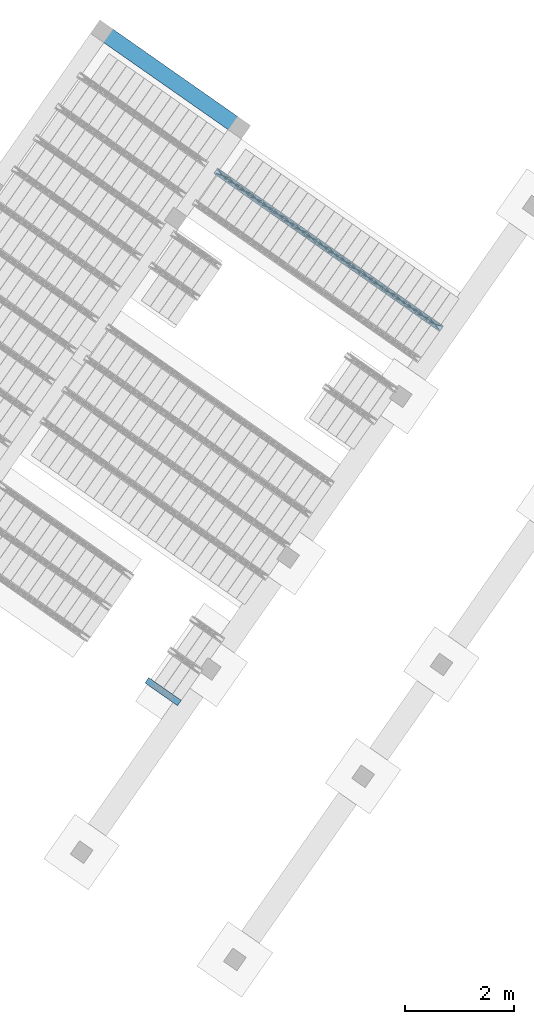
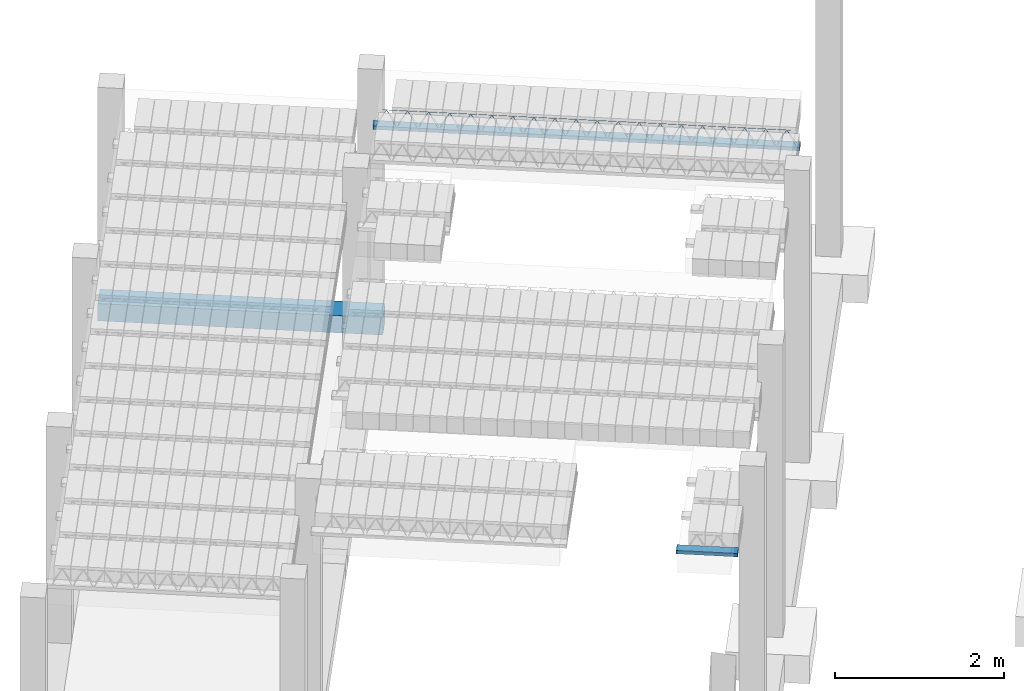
# One storey, part 49 of 80: 3 beams.
"""IFC2X3 building model written with IfcOpenShell, lengths in metres."""

from ifc_helpers import new_model, entity, si_unit, converted_unit, derived_unit, direction, frame, frame_2d, origin, origin_2d_with_axis, place, context, subcontext, project, spatial, rectangle, circle, extrude, material, type_object, element, save


model = new_model("IFC2X3")

# Units and contexts
model_context = context("Model", 3, precision=1e-05, world=origin(), true_north=direction((6.123031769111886e-17, 1.0)))
body_context = subcontext(model_context, "Body", "Model", "MODEL_VIEW")
ifc_project = project(units=[si_unit("LENGTHUNIT", "METRE"), si_unit("AREAUNIT", "SQUARE_METRE"), si_unit("VOLUMEUNIT", "CUBIC_METRE"), converted_unit("PLANEANGLEUNIT", "DEGREE", entity("IfcPlaneAngleMeasure", 0.017453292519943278), si_unit("PLANEANGLEUNIT", "RADIAN"), dimensions=[0, 0, 0, 0, 0, 0, 0]), si_unit("MASSUNIT", "GRAM", prefix="KILO"), derived_unit("MASSDENSITYUNIT", [(si_unit("MASSUNIT", "GRAM", prefix="KILO"), 1), (si_unit("LENGTHUNIT", "METRE"), -3)]), derived_unit("IONCONCENTRATIONUNIT", [(si_unit("MASSUNIT", "GRAM", prefix="KILO"), 1), (si_unit("LENGTHUNIT", "METRE"), -3)]), derived_unit("MOMENTOFINERTIAUNIT", [(si_unit("LENGTHUNIT", "METRE"), 4)]), si_unit("TIMEUNIT", "SECOND"), si_unit("FREQUENCYUNIT", "HERTZ"), si_unit("THERMODYNAMICTEMPERATUREUNIT", "DEGREE_CELSIUS"), derived_unit("THERMALTRANSMITTANCEUNIT", [(si_unit("MASSUNIT", "GRAM", prefix="KILO"), 1), (si_unit("THERMODYNAMICTEMPERATUREUNIT", "KELVIN"), -1), (si_unit("TIMEUNIT", "SECOND"), -3)]), derived_unit("THERMALCONDUCTANCEUNIT", [(si_unit("MASSUNIT", "GRAM", prefix="KILO"), 1), (si_unit("THERMODYNAMICTEMPERATUREUNIT", "KELVIN"), -1), (si_unit("TIMEUNIT", "SECOND"), -3), (si_unit("LENGTHUNIT", "METRE"), 1)]), derived_unit("VOLUMETRICFLOWRATEUNIT", [(si_unit("LENGTHUNIT", "METRE", prefix="DECI"), 3), (si_unit("TIMEUNIT", "SECOND"), -1)]), derived_unit("MASSFLOWRATEUNIT", [(si_unit("MASSUNIT", "GRAM", prefix="KILO"), 1), (si_unit("TIMEUNIT", "SECOND"), -1)]), derived_unit("ROTATIONALFREQUENCYUNIT", [(si_unit("TIMEUNIT", "SECOND"), -1)]), si_unit("ELECTRICCURRENTUNIT", "AMPERE"), si_unit("ELECTRICVOLTAGEUNIT", "VOLT"), si_unit("POWERUNIT", "WATT"), si_unit("FORCEUNIT", "NEWTON", prefix="KILO"), si_unit("ILLUMINANCEUNIT", "LUX"), si_unit("LUMINOUSFLUXUNIT", "LUMEN"), si_unit("LUMINOUSINTENSITYUNIT", "CANDELA"), si_unit("ENERGYUNIT", "JOULE"), derived_unit("USERDEFINED", [(si_unit("MASSUNIT", "GRAM", prefix="KILO"), -1), (si_unit("LENGTHUNIT", "METRE"), -2), (si_unit("TIMEUNIT", "SECOND"), 3), (si_unit("LUMINOUSFLUXUNIT", "LUMEN"), 1)]), derived_unit("USERDEFINED", [(si_unit("MASSUNIT", "GRAM", prefix="KILO"), 1), (si_unit("TIMEUNIT", "SECOND"), -3), (si_unit("LENGTHUNIT", "METRE"), 3), (si_unit("ELECTRICCURRENTUNIT", "AMPERE"), -2)]), derived_unit("SOUNDPOWERUNIT", [(si_unit("MASSUNIT", "GRAM", prefix="KILO"), 1), (si_unit("TIMEUNIT", "SECOND"), -3), (si_unit("LENGTHUNIT", "METRE"), 2)]), derived_unit("SOUNDPRESSUREUNIT", [(si_unit("MASSUNIT", "GRAM", prefix="KILO"), 1), (si_unit("LENGTHUNIT", "METRE"), -1), (si_unit("TIMEUNIT", "SECOND"), -2)]), derived_unit("LINEARVELOCITYUNIT", [(si_unit("LENGTHUNIT", "METRE"), 1), (si_unit("TIMEUNIT", "SECOND"), -1)]), si_unit("PRESSUREUNIT", "PASCAL"), derived_unit("USERDEFINED", [(si_unit("MASSUNIT", "GRAM", prefix="KILO"), 1), (si_unit("LENGTHUNIT", "METRE"), -2), (si_unit("TIMEUNIT", "SECOND"), -2)]), derived_unit("LINEARFORCEUNIT", [(si_unit("MASSUNIT", "GRAM", prefix="KILO"), 1), (si_unit("TIMEUNIT", "SECOND"), -2)]), derived_unit("PLANARFORCEUNIT", [(si_unit("MASSUNIT", "GRAM", prefix="KILO"), 1), (si_unit("LENGTHUNIT", "METRE"), -1), (si_unit("TIMEUNIT", "SECOND"), -2)]), derived_unit("SPECIFICHEATCAPACITYUNIT", [(si_unit("THERMODYNAMICTEMPERATUREUNIT", "KELVIN"), -1), (si_unit("LENGTHUNIT", "METRE"), 2), (si_unit("TIMEUNIT", "SECOND"), -2)]), derived_unit("HEATFLUXDENSITYUNIT", [(si_unit("MASSUNIT", "GRAM", prefix="KILO"), 1), (si_unit("TIMEUNIT", "SECOND"), -3)]), derived_unit("HEATINGVALUEUNIT", [(si_unit("LENGTHUNIT", "METRE"), 2), (si_unit("TIMEUNIT", "SECOND"), -2)]), derived_unit("VAPORPERMEABILITYUNIT", [(si_unit("LENGTHUNIT", "METRE"), -1), (si_unit("TIMEUNIT", "SECOND"), 1)]), derived_unit("DYNAMICVISCOSITYUNIT", [(si_unit("MASSUNIT", "GRAM", prefix="KILO"), 1), (si_unit("TIMEUNIT", "SECOND"), -1), (si_unit("LENGTHUNIT", "METRE"), -1)]), derived_unit("THERMALEXPANSIONCOEFFICIENTUNIT", [(si_unit("THERMODYNAMICTEMPERATUREUNIT", "KELVIN"), -1)]), derived_unit("MODULUSOFELASTICITYUNIT", [(si_unit("MASSUNIT", "GRAM", prefix="KILO"), 1), (si_unit("LENGTHUNIT", "METRE"), -1), (si_unit("TIMEUNIT", "SECOND"), -2)]), derived_unit("ISOTHERMALMOISTURECAPACITYUNIT", [(si_unit("MASSUNIT", "GRAM", prefix="KILO"), -1), (si_unit("LENGTHUNIT", "METRE"), 3)]), derived_unit("MOISTUREDIFFUSIVITYUNIT", [(si_unit("TIMEUNIT", "SECOND"), -1), (si_unit("LENGTHUNIT", "METRE"), 2)]), derived_unit("MASSPERLENGTHUNIT", [(si_unit("MASSUNIT", "GRAM", prefix="KILO"), 1), (si_unit("LENGTHUNIT", "METRE"), -1)]), derived_unit("THERMALRESISTANCEUNIT", [(si_unit("MASSUNIT", "GRAM", prefix="KILO"), -1), (si_unit("TIMEUNIT", "SECOND"), 3), (si_unit("THERMODYNAMICTEMPERATUREUNIT", "KELVIN"), 1)]), derived_unit("ACCELERATIONUNIT", [(si_unit("LENGTHUNIT", "METRE"), 1), (si_unit("TIMEUNIT", "SECOND"), -2)]), derived_unit("ANGULARVELOCITYUNIT", [(si_unit("TIMEUNIT", "SECOND"), -1), (si_unit("PLANEANGLEUNIT", "RADIAN"), 1)]), derived_unit("LINEARSTIFFNESSUNIT", [(si_unit("MASSUNIT", "GRAM", prefix="KILO"), 1), (si_unit("TIMEUNIT", "SECOND"), -2)]), derived_unit("WARPINGCONSTANTUNIT", [(si_unit("LENGTHUNIT", "METRE"), 6)]), derived_unit("LINEARMOMENTUNIT", [(si_unit("MASSUNIT", "GRAM", prefix="KILO"), 1), (si_unit("LENGTHUNIT", "METRE"), 1), (si_unit("TIMEUNIT", "SECOND"), -2)]), derived_unit("TORQUEUNIT", [(si_unit("MASSUNIT", "GRAM", prefix="KILO"), 1), (si_unit("LENGTHUNIT", "METRE"), 2), (si_unit("TIMEUNIT", "SECOND"), -2)])], contexts=[model_context])

# Site, building, storey
site_placement = place(None, origin())
site = spatial("IfcSite", under=ifc_project, at=site_placement, Name="Default", CompositionType="ELEMENT")
building_placement = place(site_placement, origin())
building = spatial("IfcBuilding", under=site, at=building_placement, CompositionType="ELEMENT")
storey_placement = place(building_placement, frame((0.0, 0.0, 95.94)))
storey = spatial("IfcBuildingStorey", under=building, at=storey_placement, Name="PB", CompositionType="ELEMENT", Elevation=95.94)

# Beams
beam_type = type_object("IfcBeamType", Name="Vigueta 2 (Paño 15) (Mf = 35.75)", PredefinedType="JOIST")
beam_1_placement = place(storey_placement, origin())
element("IfcBeam", 1, at=beam_1_placement, inside=storey, type_object=beam_type, Name="Vigueta 2 (Paño 15) (Mf = 35.75)", ObjectType="Mf = 35.75", context=body_context, shape_type="SweptSolid", body=[
    extrude(rectangle(XDim=5.065554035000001, YDim=0.12000000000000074, at=frame_2d((8.881784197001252e-16, 6.071532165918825e-16), x_axis=(1.0, 0.0))), frame((8.640915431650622, 6.951159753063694, 3.2799999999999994), z_axis=(0.0, 0.0, 1.0), x_axis=(0.8191520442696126, -0.5735764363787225, 0.0)), (0.0, 0.0, 1.0), 0.04999999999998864),
    extrude(circle(Radius=0.0025, at=origin_2d_with_axis()), frame((10.675336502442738, 5.482694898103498, 3.3049999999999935), z_axis=(-0.8191520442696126, 0.5735764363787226, 0.0), x_axis=(-0.5735764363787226, -0.8191520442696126, 0.0)), (0.0, 0.0, 1.0), 5.017554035),
    extrude(circle(Radius=0.0025, at=origin_2d_with_axis()), frame((6.654471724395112, 8.342082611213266, 3.5299999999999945), z_axis=(0.8191520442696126, -0.5735764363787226, 0.0), x_axis=(-0.5735764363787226, -0.8191520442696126, 0.0)), (0.0, 0.0, 1.0), 4.849999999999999),
    extrude(circle(Radius=0.0025, at=origin_2d_with_axis()), frame((10.668146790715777, 5.487729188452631, 3.3049999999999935), z_axis=(-0.3145304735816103, 0.389334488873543, 0.8657304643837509), x_axis=(-0.7778747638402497, -0.6284193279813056, 0.0)), (0.0, 0.0, 1.0), 0.2598961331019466),
    extrude(circle(Radius=0.0025, at=origin_2d_with_axis()), frame((10.46335877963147, 5.631123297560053, 3.3049999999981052), z_axis=(0.47343050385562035, -0.1624017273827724, 0.8657304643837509), x_axis=(-0.3244721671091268, -0.9458952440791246, 0.0)), (0.0, 0.0, 1.0), 0.25989613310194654),
    extrude(circle(Radius=0.0025, at=origin_2d_with_axis()), frame((10.463358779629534, 5.631123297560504, 3.3049999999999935), z_axis=(-0.3145304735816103, 0.389334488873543, 0.8657304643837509), x_axis=(-0.7778747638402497, -0.6284193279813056, 0.0)), (0.0, 0.0, 1.0), 0.2598961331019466),
    extrude(circle(Radius=0.0025, at=origin_2d_with_axis()), frame((10.258570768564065, 5.774517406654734, 3.3049999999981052), z_axis=(0.47343050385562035, -0.1624017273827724, 0.8657304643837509), x_axis=(-0.3244721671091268, -0.9458952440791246, 0.0)), (0.0, 0.0, 1.0), 0.25989613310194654),
    extrude(circle(Radius=0.0025, at=origin_2d_with_axis()), frame((10.258570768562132, 5.7745174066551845, 3.3049999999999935), z_axis=(-0.3145304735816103, 0.389334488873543, 0.8657304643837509), x_axis=(-0.7778747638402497, -0.6284193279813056, 0.0)), (0.0, 0.0, 1.0), 0.2598961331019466),
    extrude(circle(Radius=0.0025, at=origin_2d_with_axis()), frame((10.053782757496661, 5.917911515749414, 3.3049999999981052), z_axis=(0.47343050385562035, -0.1624017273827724, 0.8657304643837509), x_axis=(-0.3244721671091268, -0.9458952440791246, 0.0)), (0.0, 0.0, 1.0), 0.25989613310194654),
    extrude(circle(Radius=0.0025, at=origin_2d_with_axis()), frame((10.053782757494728, 5.917911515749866, 3.3049999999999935), z_axis=(-0.3145304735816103, 0.389334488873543, 0.8657304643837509), x_axis=(-0.7778747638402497, -0.6284193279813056, 0.0)), (0.0, 0.0, 1.0), 0.2598961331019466),
    extrude(circle(Radius=0.0025, at=origin_2d_with_axis()), frame((9.848994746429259, 6.061305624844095, 3.3049999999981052), z_axis=(0.47343050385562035, -0.1624017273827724, 0.8657304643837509), x_axis=(-0.3244721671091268, -0.9458952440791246, 0.0)), (0.0, 0.0, 1.0), 0.25989613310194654),
    extrude(circle(Radius=0.0025, at=origin_2d_with_axis()), frame((9.848994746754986, 6.061305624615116, 3.3049999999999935), z_axis=(-0.3145304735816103, 0.389334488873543, 0.8657304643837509), x_axis=(-0.7778747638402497, -0.6284193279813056, 0.0)), (0.0, 0.0, 1.0), 0.2598961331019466),
    extrude(circle(Radius=0.0025, at=origin_2d_with_axis()), frame((9.644206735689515, 6.204699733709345, 3.3049999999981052), z_axis=(0.47343050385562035, -0.1624017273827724, 0.8657304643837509), x_axis=(-0.3244721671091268, -0.9458952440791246, 0.0)), (0.0, 0.0, 1.0), 0.25989613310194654),
    extrude(circle(Radius=0.0025, at=origin_2d_with_axis()), frame((9.644206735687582, 6.204699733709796, 3.3049999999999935), z_axis=(-0.3145304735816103, 0.389334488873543, 0.8657304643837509), x_axis=(-0.7778747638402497, -0.6284193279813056, 0.0)), (0.0, 0.0, 1.0), 0.2598961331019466),
    extrude(circle(Radius=0.0025, at=origin_2d_with_axis()), frame((9.439418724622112, 6.348093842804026, 3.3049999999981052), z_axis=(0.47343050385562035, -0.1624017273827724, 0.8657304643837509), x_axis=(-0.3244721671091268, -0.9458952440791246, 0.0)), (0.0, 0.0, 1.0), 0.25989613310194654),
    extrude(circle(Radius=0.0025, at=origin_2d_with_axis()), frame((9.439418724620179, 6.348093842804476, 3.3049999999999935), z_axis=(-0.3145304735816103, 0.389334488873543, 0.8657304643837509), x_axis=(-0.7778747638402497, -0.6284193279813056, 0.0)), (0.0, 0.0, 1.0), 0.2598961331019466),
    extrude(circle(Radius=0.0025, at=origin_2d_with_axis()), frame((9.23463071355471, 6.491487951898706, 3.3049999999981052), z_axis=(0.47343050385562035, -0.1624017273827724, 0.8657304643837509), x_axis=(-0.3244721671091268, -0.9458952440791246, 0.0)), (0.0, 0.0, 1.0), 0.25989613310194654),
    extrude(circle(Radius=0.0025, at=origin_2d_with_axis()), frame((9.234630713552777, 6.491487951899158, 3.3049999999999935), z_axis=(-0.3145304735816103, 0.389334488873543, 0.8657304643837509), x_axis=(-0.7778747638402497, -0.6284193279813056, 0.0)), (0.0, 0.0, 1.0), 0.2598961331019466),
    extrude(circle(Radius=0.0025, at=origin_2d_with_axis()), frame((9.029842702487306, 6.6348820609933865, 3.3049999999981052), z_axis=(0.47343050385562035, -0.1624017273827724, 0.8657304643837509), x_axis=(-0.3244721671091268, -0.9458952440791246, 0.0)), (0.0, 0.0, 1.0), 0.25989613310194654),
    extrude(circle(Radius=0.0025, at=origin_2d_with_axis()), frame((9.029842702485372, 6.634882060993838, 3.3049999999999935), z_axis=(-0.3145304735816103, 0.389334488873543, 0.8657304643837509), x_axis=(-0.7778747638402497, -0.6284193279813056, 0.0)), (0.0, 0.0, 1.0), 0.2598961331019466),
    extrude(circle(Radius=0.0025, at=origin_2d_with_axis()), frame((8.825054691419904, 6.778276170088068, 3.3049999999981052), z_axis=(0.47343050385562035, -0.1624017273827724, 0.8657304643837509), x_axis=(-0.3244721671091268, -0.9458952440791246, 0.0)), (0.0, 0.0, 1.0), 0.25989613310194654),
    extrude(circle(Radius=0.0025, at=origin_2d_with_axis()), frame((8.82505469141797, 6.778276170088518, 3.3049999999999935), z_axis=(-0.3145304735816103, 0.389334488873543, 0.8657304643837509), x_axis=(-0.7778747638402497, -0.6284193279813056, 0.0)), (0.0, 0.0, 1.0), 0.2598961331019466),
    extrude(circle(Radius=0.0025, at=origin_2d_with_axis()), frame((8.620266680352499, 6.921670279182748, 3.3049999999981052), z_axis=(0.47343050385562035, -0.1624017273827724, 0.8657304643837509), x_axis=(-0.3244721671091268, -0.9458952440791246, 0.0)), (0.0, 0.0, 1.0), 0.25989613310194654),
    extrude(circle(Radius=0.0025, at=origin_2d_with_axis()), frame((8.620266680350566, 6.921670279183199, 3.3049999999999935), z_axis=(-0.3145304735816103, 0.389334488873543, 0.8657304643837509), x_axis=(-0.7778747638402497, -0.6284193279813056, 0.0)), (0.0, 0.0, 1.0), 0.2598961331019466),
    extrude(circle(Radius=0.0025, at=origin_2d_with_axis()), frame((8.415478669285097, 7.065064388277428, 3.3049999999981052), z_axis=(0.47343050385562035, -0.1624017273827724, 0.8657304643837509), x_axis=(-0.3244721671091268, -0.9458952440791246, 0.0)), (0.0, 0.0, 1.0), 0.25989613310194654),
    extrude(circle(Radius=0.0025, at=origin_2d_with_axis()), frame((8.415478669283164, 7.06506438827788, 3.3049999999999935), z_axis=(-0.3145304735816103, 0.389334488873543, 0.8657304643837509), x_axis=(-0.7778747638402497, -0.6284193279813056, 0.0)), (0.0, 0.0, 1.0), 0.2598961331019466),
    extrude(circle(Radius=0.0025, at=origin_2d_with_axis()), frame((8.210690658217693, 7.20845849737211, 3.3049999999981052), z_axis=(0.47343050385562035, -0.1624017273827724, 0.8657304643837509), x_axis=(-0.3244721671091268, -0.9458952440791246, 0.0)), (0.0, 0.0, 1.0), 0.25989613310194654),
    extrude(circle(Radius=0.0025, at=origin_2d_with_axis()), frame((8.21069065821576, 7.20845849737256, 3.3049999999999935), z_axis=(-0.3145304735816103, 0.389334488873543, 0.8657304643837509), x_axis=(-0.7778747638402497, -0.6284193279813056, 0.0)), (0.0, 0.0, 1.0), 0.2598961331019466),
    extrude(circle(Radius=0.0025, at=origin_2d_with_axis()), frame((8.00590264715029, 7.35185260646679, 3.3049999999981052), z_axis=(0.47343050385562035, -0.1624017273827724, 0.8657304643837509), x_axis=(-0.3244721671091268, -0.9458952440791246, 0.0)), (0.0, 0.0, 1.0), 0.25989613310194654),
    extrude(circle(Radius=0.0025, at=origin_2d_with_axis()), frame((8.005902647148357, 7.351852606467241, 3.3049999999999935), z_axis=(-0.3145304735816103, 0.389334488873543, 0.8657304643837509), x_axis=(-0.7778747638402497, -0.6284193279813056, 0.0)), (0.0, 0.0, 1.0), 0.2598961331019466),
    extrude(circle(Radius=0.0025, at=origin_2d_with_axis()), frame((7.801114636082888, 7.49524671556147, 3.3049999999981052), z_axis=(0.47343050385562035, -0.1624017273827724, 0.8657304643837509), x_axis=(-0.3244721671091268, -0.9458952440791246, 0.0)), (0.0, 0.0, 1.0), 0.25989613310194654),
    extrude(circle(Radius=0.0025, at=origin_2d_with_axis()), frame((7.801114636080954, 7.4952467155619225, 3.3049999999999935), z_axis=(-0.3145304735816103, 0.389334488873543, 0.8657304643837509), x_axis=(-0.7778747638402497, -0.6284193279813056, 0.0)), (0.0, 0.0, 1.0), 0.2598961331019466),
    extrude(circle(Radius=0.0025, at=origin_2d_with_axis()), frame((7.596326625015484, 7.638640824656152, 3.3049999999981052), z_axis=(0.47343050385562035, -0.1624017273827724, 0.8657304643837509), x_axis=(-0.3244721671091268, -0.9458952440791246, 0.0)), (0.0, 0.0, 1.0), 0.25989613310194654),
    extrude(circle(Radius=0.0025, at=origin_2d_with_axis()), frame((7.5963266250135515, 7.638640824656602, 3.3049999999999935), z_axis=(-0.3145304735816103, 0.389334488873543, 0.8657304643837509), x_axis=(-0.7778747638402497, -0.6284193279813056, 0.0)), (0.0, 0.0, 1.0), 0.2598961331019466),
    extrude(circle(Radius=0.0025, at=origin_2d_with_axis()), frame((7.391538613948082, 7.782034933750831, 3.3049999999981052), z_axis=(0.47343050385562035, -0.1624017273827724, 0.8657304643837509), x_axis=(-0.3244721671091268, -0.9458952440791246, 0.0)), (0.0, 0.0, 1.0), 0.25989613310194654),
    extrude(circle(Radius=0.0025, at=origin_2d_with_axis()), frame((7.391538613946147, 7.782034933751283, 3.3049999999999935), z_axis=(-0.3145304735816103, 0.389334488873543, 0.8657304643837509), x_axis=(-0.7778747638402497, -0.6284193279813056, 0.0)), (0.0, 0.0, 1.0), 0.2598961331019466),
    extrude(circle(Radius=0.0025, at=origin_2d_with_axis()), frame((7.186750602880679, 7.925429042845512, 3.3049999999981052), z_axis=(0.47343050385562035, -0.1624017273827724, 0.8657304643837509), x_axis=(-0.3244721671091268, -0.9458952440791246, 0.0)), (0.0, 0.0, 1.0), 0.25989613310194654),
    extrude(circle(Radius=0.0025, at=origin_2d_with_axis()), frame((7.186750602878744, 7.925429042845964, 3.3049999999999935), z_axis=(-0.3145304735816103, 0.389334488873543, 0.8657304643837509), x_axis=(-0.7778747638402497, -0.6284193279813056, 0.0)), (0.0, 0.0, 1.0), 0.2598961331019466),
    extrude(circle(Radius=0.0025, at=origin_2d_with_axis()), frame((6.981962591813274, 8.068823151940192, 3.3049999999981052), z_axis=(0.47343050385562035, -0.1624017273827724, 0.8657304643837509), x_axis=(-0.3244721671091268, -0.9458952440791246, 0.0)), (0.0, 0.0, 1.0), 0.25989613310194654),
    extrude(circle(Radius=0.0025, at=origin_2d_with_axis()), frame((6.9819625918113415, 8.068823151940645, 3.3049999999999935), z_axis=(-0.3145304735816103, 0.389334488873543, 0.8657304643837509), x_axis=(-0.7778747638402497, -0.6284193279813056, 0.0)), (0.0, 0.0, 1.0), 0.2598961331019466),
    extrude(circle(Radius=0.0025, at=origin_2d_with_axis()), frame((6.777174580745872, 8.212217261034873, 3.3049999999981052), z_axis=(0.47343050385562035, -0.1624017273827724, 0.8657304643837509), x_axis=(-0.3244721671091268, -0.9458952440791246, 0.0)), (0.0, 0.0, 1.0), 0.25989613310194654),
    extrude(circle(Radius=0.0025, at=origin_2d_with_axis()), frame((6.777174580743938, 8.212217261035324, 3.3049999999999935), z_axis=(-0.3145304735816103, 0.389334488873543, 0.8657304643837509), x_axis=(-0.7778747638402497, -0.6284193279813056, 0.0)), (0.0, 0.0, 1.0), 0.2598961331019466),
    extrude(circle(Radius=0.0025, at=origin_2d_with_axis()), frame((6.572386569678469, 8.355611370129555, 3.3049999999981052), z_axis=(0.47343050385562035, -0.1624017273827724, 0.8657304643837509), x_axis=(-0.3244721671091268, -0.9458952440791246, 0.0)), (0.0, 0.0, 1.0), 0.25989613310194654),
    extrude(circle(Radius=0.0025, at=origin_2d_with_axis()), frame((6.606494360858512, 8.41962460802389, 3.3049999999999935), z_axis=(0.8191520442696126, -0.5735764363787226, 0.0), x_axis=(-0.5735764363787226, -0.8191520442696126, 0.0)), (0.0, 0.0, 1.0), 5.017554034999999),
    extrude(circle(Radius=0.0025, at=origin_2d_with_axis()), frame((10.709444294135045, 5.546708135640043, 3.3049999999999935), z_axis=(-0.47343050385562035, 0.1624017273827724, 0.8657304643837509), x_axis=(-0.3244721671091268, -0.9458952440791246, 0.0)), (0.0, 0.0, 1.0), 0.25989613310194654),
    extrude(circle(Radius=0.0025, at=origin_2d_with_axis()), frame((10.50465628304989, 5.690102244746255, 3.3049999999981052), z_axis=(0.3145304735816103, -0.389334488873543, 0.8657304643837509), x_axis=(-0.7778747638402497, -0.6284193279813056, 0.0)), (0.0, 0.0, 1.0), 0.2598961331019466),
    extrude(circle(Radius=0.0025, at=origin_2d_with_axis()), frame((10.504656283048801, 5.690102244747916, 3.3049999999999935), z_axis=(-0.47343050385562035, 0.1624017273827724, 0.8657304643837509), x_axis=(-0.3244721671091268, -0.9458952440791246, 0.0)), (0.0, 0.0, 1.0), 0.25989613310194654),
    extrude(circle(Radius=0.0025, at=origin_2d_with_axis()), frame((10.299868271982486, 5.833496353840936, 3.3049999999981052), z_axis=(0.3145304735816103, -0.389334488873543, 0.8657304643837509), x_axis=(-0.7778747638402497, -0.6284193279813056, 0.0)), (0.0, 0.0, 1.0), 0.2598961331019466),
    extrude(circle(Radius=0.0025, at=origin_2d_with_axis()), frame((10.2998682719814, 5.833496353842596, 3.3049999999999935), z_axis=(-0.47343050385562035, 0.1624017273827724, 0.8657304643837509), x_axis=(-0.3244721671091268, -0.9458952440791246, 0.0)), (0.0, 0.0, 1.0), 0.25989613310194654),
    extrude(circle(Radius=0.0025, at=origin_2d_with_axis()), frame((10.095080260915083, 5.976890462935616, 3.3049999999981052), z_axis=(0.3145304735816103, -0.389334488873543, 0.8657304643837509), x_axis=(-0.7778747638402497, -0.6284193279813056, 0.0)), (0.0, 0.0, 1.0), 0.2598961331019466),
    extrude(circle(Radius=0.0025, at=origin_2d_with_axis()), frame((10.095080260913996, 5.976890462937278, 3.3049999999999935), z_axis=(-0.47343050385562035, 0.1624017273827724, 0.8657304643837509), x_axis=(-0.3244721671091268, -0.9458952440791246, 0.0)), (0.0, 0.0, 1.0), 0.25989613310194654),
    extrude(circle(Radius=0.0025, at=origin_2d_with_axis()), frame((9.89029224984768, 6.120284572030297, 3.3049999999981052), z_axis=(0.3145304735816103, -0.389334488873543, 0.8657304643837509), x_axis=(-0.7778747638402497, -0.6284193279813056, 0.0)), (0.0, 0.0, 1.0), 0.2598961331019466),
    extrude(circle(Radius=0.0025, at=origin_2d_with_axis()), frame((9.890292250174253, 6.120284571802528, 3.3049999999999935), z_axis=(-0.47343050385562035, 0.1624017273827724, 0.8657304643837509), x_axis=(-0.3244721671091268, -0.9458952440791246, 0.0)), (0.0, 0.0, 1.0), 0.25989613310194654),
    extrude(circle(Radius=0.0025, at=origin_2d_with_axis()), frame((9.685504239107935, 6.263678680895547, 3.3049999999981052), z_axis=(0.3145304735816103, -0.389334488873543, 0.8657304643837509), x_axis=(-0.7778747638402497, -0.6284193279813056, 0.0)), (0.0, 0.0, 1.0), 0.2598961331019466),
    extrude(circle(Radius=0.0025, at=origin_2d_with_axis()), frame((9.68550423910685, 6.263678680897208, 3.3049999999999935), z_axis=(-0.47343050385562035, 0.1624017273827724, 0.8657304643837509), x_axis=(-0.3244721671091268, -0.9458952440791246, 0.0)), (0.0, 0.0, 1.0), 0.25989613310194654),
    extrude(circle(Radius=0.0025, at=origin_2d_with_axis()), frame((9.480716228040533, 6.407072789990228, 3.3049999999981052), z_axis=(0.3145304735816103, -0.389334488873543, 0.8657304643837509), x_axis=(-0.7778747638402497, -0.6284193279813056, 0.0)), (0.0, 0.0, 1.0), 0.2598961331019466),
    extrude(circle(Radius=0.0025, at=origin_2d_with_axis()), frame((9.480716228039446, 6.407072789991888, 3.3049999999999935), z_axis=(-0.47343050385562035, 0.1624017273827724, 0.8657304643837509), x_axis=(-0.3244721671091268, -0.9458952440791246, 0.0)), (0.0, 0.0, 1.0), 0.25989613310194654),
    extrude(circle(Radius=0.0025, at=origin_2d_with_axis()), frame((9.27592821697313, 6.550466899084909, 3.3049999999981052), z_axis=(0.3145304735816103, -0.389334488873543, 0.8657304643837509), x_axis=(-0.7778747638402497, -0.6284193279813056, 0.0)), (0.0, 0.0, 1.0), 0.2598961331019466),
    extrude(circle(Radius=0.0025, at=origin_2d_with_axis()), frame((9.275928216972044, 6.55046689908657, 3.3049999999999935), z_axis=(-0.47343050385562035, 0.1624017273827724, 0.8657304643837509), x_axis=(-0.3244721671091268, -0.9458952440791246, 0.0)), (0.0, 0.0, 1.0), 0.25989613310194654),
    extrude(circle(Radius=0.0025, at=origin_2d_with_axis()), frame((9.071140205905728, 6.693861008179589, 3.3049999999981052), z_axis=(0.3145304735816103, -0.389334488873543, 0.8657304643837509), x_axis=(-0.7778747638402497, -0.6284193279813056, 0.0)), (0.0, 0.0, 1.0), 0.2598961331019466),
    extrude(circle(Radius=0.0025, at=origin_2d_with_axis()), frame((9.07114020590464, 6.6938610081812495, 3.3049999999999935), z_axis=(-0.47343050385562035, 0.1624017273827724, 0.8657304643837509), x_axis=(-0.3244721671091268, -0.9458952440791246, 0.0)), (0.0, 0.0, 1.0), 0.25989613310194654),
    extrude(circle(Radius=0.0025, at=origin_2d_with_axis()), frame((8.866352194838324, 6.83725511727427, 3.3049999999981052), z_axis=(0.3145304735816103, -0.389334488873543, 0.8657304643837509), x_axis=(-0.7778747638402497, -0.6284193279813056, 0.0)), (0.0, 0.0, 1.0), 0.2598961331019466),
    extrude(circle(Radius=0.0025, at=origin_2d_with_axis()), frame((8.866352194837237, 6.83725511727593, 3.3049999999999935), z_axis=(-0.47343050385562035, 0.1624017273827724, 0.8657304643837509), x_axis=(-0.3244721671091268, -0.9458952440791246, 0.0)), (0.0, 0.0, 1.0), 0.25989613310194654),
    extrude(circle(Radius=0.0025, at=origin_2d_with_axis()), frame((8.66156418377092, 6.980649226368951, 3.3049999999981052), z_axis=(0.3145304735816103, -0.389334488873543, 0.8657304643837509), x_axis=(-0.7778747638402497, -0.6284193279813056, 0.0)), (0.0, 0.0, 1.0), 0.2598961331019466),
    extrude(circle(Radius=0.0025, at=origin_2d_with_axis()), frame((8.661564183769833, 6.980649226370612, 3.3049999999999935), z_axis=(-0.47343050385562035, 0.1624017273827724, 0.8657304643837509), x_axis=(-0.3244721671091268, -0.9458952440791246, 0.0)), (0.0, 0.0, 1.0), 0.25989613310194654),
    extrude(circle(Radius=0.0025, at=origin_2d_with_axis()), frame((8.456776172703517, 7.1240433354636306, 3.3049999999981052), z_axis=(0.3145304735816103, -0.389334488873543, 0.8657304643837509), x_axis=(-0.7778747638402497, -0.6284193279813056, 0.0)), (0.0, 0.0, 1.0), 0.2598961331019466),
    extrude(circle(Radius=0.0025, at=origin_2d_with_axis()), frame((8.456776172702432, 7.124043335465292, 3.3049999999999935), z_axis=(-0.47343050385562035, 0.1624017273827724, 0.8657304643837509), x_axis=(-0.3244721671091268, -0.9458952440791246, 0.0)), (0.0, 0.0, 1.0), 0.25989613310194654),
    extrude(circle(Radius=0.0025, at=origin_2d_with_axis()), frame((8.251988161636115, 7.267437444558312, 3.3049999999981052), z_axis=(0.3145304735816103, -0.389334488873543, 0.8657304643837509), x_axis=(-0.7778747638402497, -0.6284193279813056, 0.0)), (0.0, 0.0, 1.0), 0.2598961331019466),
    extrude(circle(Radius=0.0025, at=origin_2d_with_axis()), frame((8.251988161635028, 7.267437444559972, 3.3049999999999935), z_axis=(-0.47343050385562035, 0.1624017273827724, 0.8657304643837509), x_axis=(-0.3244721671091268, -0.9458952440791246, 0.0)), (0.0, 0.0, 1.0), 0.25989613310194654),
    extrude(circle(Radius=0.0025, at=origin_2d_with_axis()), frame((8.047200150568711, 7.410831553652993, 3.3049999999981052), z_axis=(0.3145304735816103, -0.389334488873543, 0.8657304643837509), x_axis=(-0.7778747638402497, -0.6284193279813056, 0.0)), (0.0, 0.0, 1.0), 0.2598961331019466),
    extrude(circle(Radius=0.0025, at=origin_2d_with_axis()), frame((8.047200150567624, 7.410831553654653, 3.3049999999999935), z_axis=(-0.47343050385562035, 0.1624017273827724, 0.8657304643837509), x_axis=(-0.3244721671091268, -0.9458952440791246, 0.0)), (0.0, 0.0, 1.0), 0.25989613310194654),
    extrude(circle(Radius=0.0025, at=origin_2d_with_axis()), frame((7.842412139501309, 7.5542256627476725, 3.3049999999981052), z_axis=(0.3145304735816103, -0.389334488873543, 0.8657304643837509), x_axis=(-0.7778747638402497, -0.6284193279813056, 0.0)), (0.0, 0.0, 1.0), 0.2598961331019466),
    extrude(circle(Radius=0.0025, at=origin_2d_with_axis()), frame((7.8424121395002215, 7.554225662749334, 3.3049999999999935), z_axis=(-0.47343050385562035, 0.1624017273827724, 0.8657304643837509), x_axis=(-0.3244721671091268, -0.9458952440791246, 0.0)), (0.0, 0.0, 1.0), 0.25989613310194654),
    extrude(circle(Radius=0.0025, at=origin_2d_with_axis()), frame((7.637624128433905, 7.697619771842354, 3.3049999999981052), z_axis=(0.3145304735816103, -0.389334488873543, 0.8657304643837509), x_axis=(-0.7778747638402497, -0.6284193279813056, 0.0)), (0.0, 0.0, 1.0), 0.2598961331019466),
    extrude(circle(Radius=0.0025, at=origin_2d_with_axis()), frame((7.637624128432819, 7.697619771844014, 3.3049999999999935), z_axis=(-0.47343050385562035, 0.1624017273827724, 0.8657304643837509), x_axis=(-0.3244721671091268, -0.9458952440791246, 0.0)), (0.0, 0.0, 1.0), 0.25989613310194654),
    extrude(circle(Radius=0.0025, at=origin_2d_with_axis()), frame((7.432836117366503, 7.841013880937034, 3.3049999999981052), z_axis=(0.3145304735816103, -0.389334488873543, 0.8657304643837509), x_axis=(-0.7778747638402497, -0.6284193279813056, 0.0)), (0.0, 0.0, 1.0), 0.2598961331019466),
    extrude(circle(Radius=0.0025, at=origin_2d_with_axis()), frame((7.432836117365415, 7.841013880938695, 3.3049999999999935), z_axis=(-0.47343050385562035, 0.1624017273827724, 0.8657304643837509), x_axis=(-0.3244721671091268, -0.9458952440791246, 0.0)), (0.0, 0.0, 1.0), 0.25989613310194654),
    extrude(circle(Radius=0.0025, at=origin_2d_with_axis()), frame((7.2280481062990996, 7.984407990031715, 3.3049999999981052), z_axis=(0.3145304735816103, -0.389334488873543, 0.8657304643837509), x_axis=(-0.7778747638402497, -0.6284193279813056, 0.0)), (0.0, 0.0, 1.0), 0.2598961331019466),
    extrude(circle(Radius=0.0025, at=origin_2d_with_axis()), frame((7.228048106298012, 7.984407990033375, 3.3049999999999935), z_axis=(-0.47343050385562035, 0.1624017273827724, 0.8657304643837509), x_axis=(-0.3244721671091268, -0.9458952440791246, 0.0)), (0.0, 0.0, 1.0), 0.25989613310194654),
    extrude(circle(Radius=0.0025, at=origin_2d_with_axis()), frame((7.023260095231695, 8.127802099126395, 3.3049999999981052), z_axis=(0.3145304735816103, -0.389334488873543, 0.8657304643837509), x_axis=(-0.7778747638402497, -0.6284193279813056, 0.0)), (0.0, 0.0, 1.0), 0.2598961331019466),
    extrude(circle(Radius=0.0025, at=origin_2d_with_axis()), frame((7.023260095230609, 8.127802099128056, 3.3049999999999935), z_axis=(-0.47343050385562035, 0.1624017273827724, 0.8657304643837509), x_axis=(-0.3244721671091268, -0.9458952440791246, 0.0)), (0.0, 0.0, 1.0), 0.25989613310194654),
    extrude(circle(Radius=0.0025, at=origin_2d_with_axis()), frame((6.818472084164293, 8.271196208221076, 3.3049999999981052), z_axis=(0.3145304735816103, -0.389334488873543, 0.8657304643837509), x_axis=(-0.7778747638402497, -0.6284193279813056, 0.0)), (0.0, 0.0, 1.0), 0.2598961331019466),
    extrude(circle(Radius=0.0025, at=origin_2d_with_axis()), frame((6.818472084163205, 8.271196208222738, 3.3049999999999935), z_axis=(-0.47343050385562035, 0.1624017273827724, 0.8657304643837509), x_axis=(-0.3244721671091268, -0.9458952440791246, 0.0)), (0.0, 0.0, 1.0), 0.25989613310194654),
    extrude(circle(Radius=0.0025, at=origin_2d_with_axis()), frame((6.6136840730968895, 8.414590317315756, 3.3049999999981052), z_axis=(0.3145304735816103, -0.389334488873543, 0.8657304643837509), x_axis=(-0.7778747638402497, -0.6284193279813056, 0.0)), (0.0, 0.0, 1.0), 0.2598961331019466),
])
ifc_material = material(Name="Hormigón armado")
beam_2_placement = place(storey_placement, origin())
element("IfcBeam", 2, at=beam_2_placement, inside=storey, material=ifc_material, Name="Viga 1 (30x25)", ObjectType="30x25", context=body_context, shape_type="SweptSolid", body=[
    extrude(rectangle(XDim=0.2500000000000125, YDim=0.3000000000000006, at=frame_2d((0.0, 1.3461454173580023e-15), x_axis=(1.0, 0.0))), frame((4.350410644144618, 11.05287951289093, -0.12500000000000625), z_axis=(0.819152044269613, -0.573576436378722, 0.0), x_axis=(0.0, 0.0, 1.0)), (0.0, 0.0, 1.0), 3.3844485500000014),
])
beam_3_placement = place(storey_placement, origin())
element("IfcBeam", 3, at=beam_3_placement, inside=storey, material=ifc_material, Name="238582", context=body_context, shape_type="SweptSolid", body=[
    extrude(rectangle(XDim=0.04999999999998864, YDim=0.11999999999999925, at=frame_2d((0.0, -5.551115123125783e-17), x_axis=(1.0, 0.0))), frame((5.2993191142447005, -0.9635358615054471, 3.3049999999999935), z_axis=(0.8191520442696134, -0.5735764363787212, 0.0), x_axis=(0.0, 0.0, -1.0)), (0.0, 0.0, 1.0), 0.7303695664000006),
])

save(model, "model.ifc")
